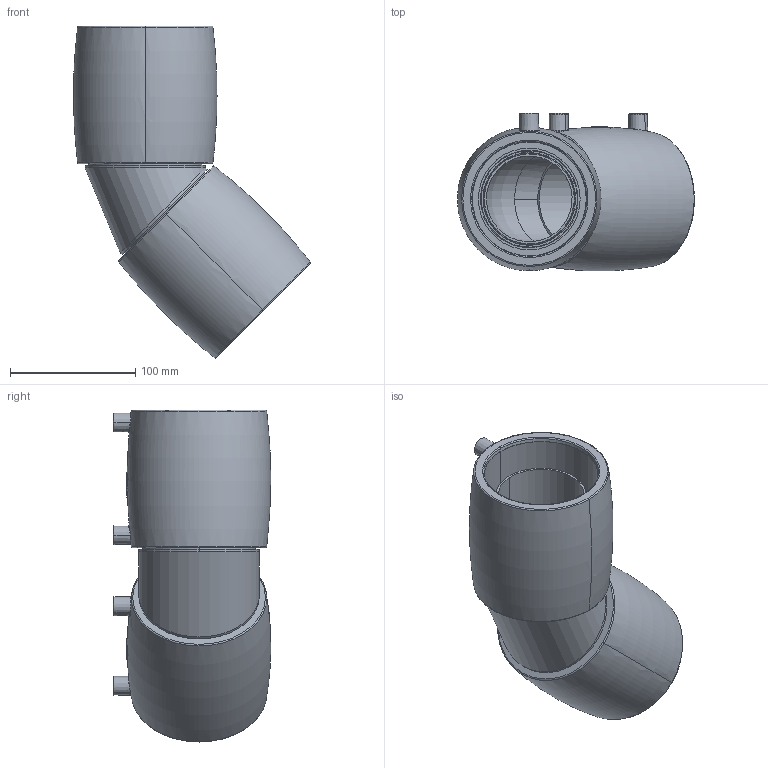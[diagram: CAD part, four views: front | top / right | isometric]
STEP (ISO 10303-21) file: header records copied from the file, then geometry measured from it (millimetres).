
FILE_DESCRIPTION (( 'STEP AP214' ), '1' );
FILE_NAME ('KP_24-90EC.STEP', '2013-03-13T10:51:07', ( '' ), ( '' ), 'SwSTEP 2.0', 'SolidWorks 2012', '' );
FILE_SCHEMA (( 'AUTOMOTIVE_DESIGN' ));
Length unit declared in the file: millimetre
Products named in the file (1): KP_24-90EC
Bounding box: 189.4 x 125.71 x 265.31 mm (x, y, z)
Volume: 1209886.9 mm3; surface area: 276492.9 mm2
Topology: 1 solids, 9 shells, 1137 faces, 2884 edges, 1885 vertices
Faces by surface type: plane 578, bspline 246, torus 125, cylinder 112, cone 72, sphere 4
Entity records: 50600 total; most frequent: CARTESIAN_POINT 24405, ORIENTED_EDGE 5756, DIRECTION 4070, EDGE_CURVE 2878, VERTEX_POINT 1885, AXIS2_PLACEMENT_3D 1430, EDGE_LOOP 1273, LINE 1210
